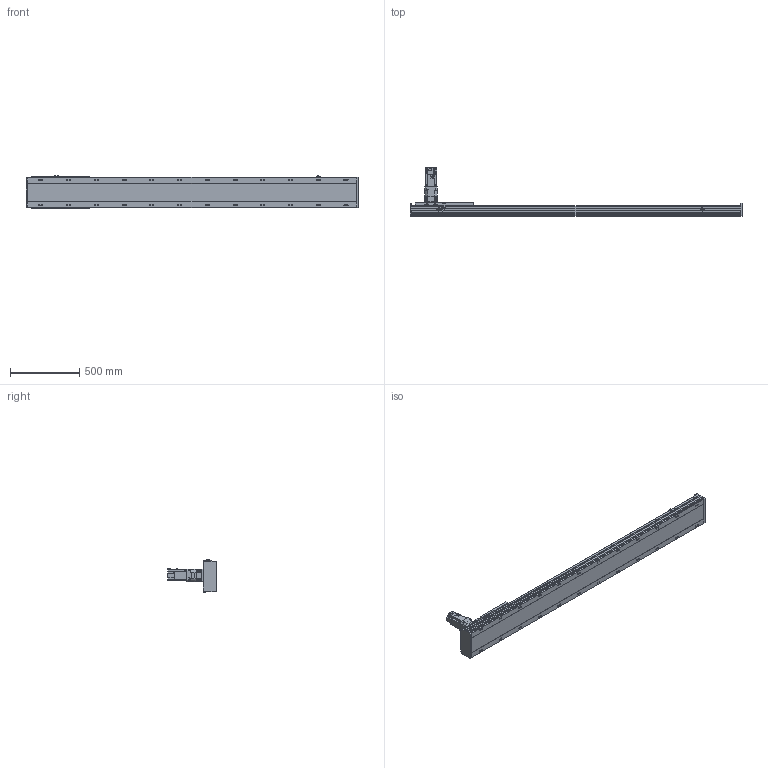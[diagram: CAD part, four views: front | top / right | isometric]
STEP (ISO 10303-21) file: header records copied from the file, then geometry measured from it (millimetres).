
FILE_DESCRIPTION(/* description */ ('STEP AP214'),/* implementation_level */ '2;1');
FILE_NAME(/* name */ 'SHS22A-L13-S1900-BC-T75-C1-N(0)',/* time_stamp */ '2022-06-15T02:26:55+02:00',/* author */ ('License CC BY-ND 4.0'),/* organization */ ('CADENAS'),/* preprocessor_version */ 'ST-DEVELOPER v18.102',/* originating_system */ 'PARTsolutions',/* authorisation */ ' ');
FILE_SCHEMA (('AUTOMOTIVE_DESIGN {1 0 10303 214 3 1 1}'));
Length unit declared in the file: millimetre
Products named in the file (7): SHS22A-L13-S1900-BC-T75-C1-N(0); PSC140-sensor; SHS22A-S1900_body2; T75-p1; SHS22A-S1900_body3; SHS22A-S1900_slider; SHS22A-L13-S1900-BC-T75-C1(0)_body
Assembly tree (13 placements, depth 2):
  SHS22A-L13-S1900-BC-T75-C1-N(0)
    PSC140-sensor  x3
    SHS22A-S1900_body2  x6
    T75-p1
    SHS22A-S1900_body3
    SHS22A-S1900_slider
    SHS22A-L13-S1900-BC-T75-C1(0)_body
Bounding box: 2394 x 350.8 x 238.4 mm (x, y, z)
Volume: 27280596.1 mm3; surface area: 2860485.3 mm2
Topology: 13 solids, 13 shells, 1845 faces, 4751 edges, 3112 vertices
Faces by surface type: plane 1328, cylinder 419, cone 89, torus 9
Full cylindrical faces by diameter (mm): 2.8 x3, 4.2 x2, 4.6 x3, 4.917 x4, 5 x4, 5.6 x24, 6 x31, 6.6 x24, 6.647 x8, 6.8 x9, 7.75 x6, 8 x3, 8.376 x24, 8.5 x24, 10 x4, 11 x4, 12 x24, 14 x24, 22 x1, 24.1 x1, 28 x1, 28.2 x1, 28.8 x1, 48.542 x1, 68 x1, 70 x1, 78 x1, 80 x2
Entity records: 30346 total; most frequent: CARTESIAN_POINT 5405, DIRECTION 5135, ORIENTED_EDGE 4692, EDGE_CURVE 2346, AXIS2_PLACEMENT_3D 1784, VERTEX_POINT 1678, LINE 1567, VECTOR 1567
